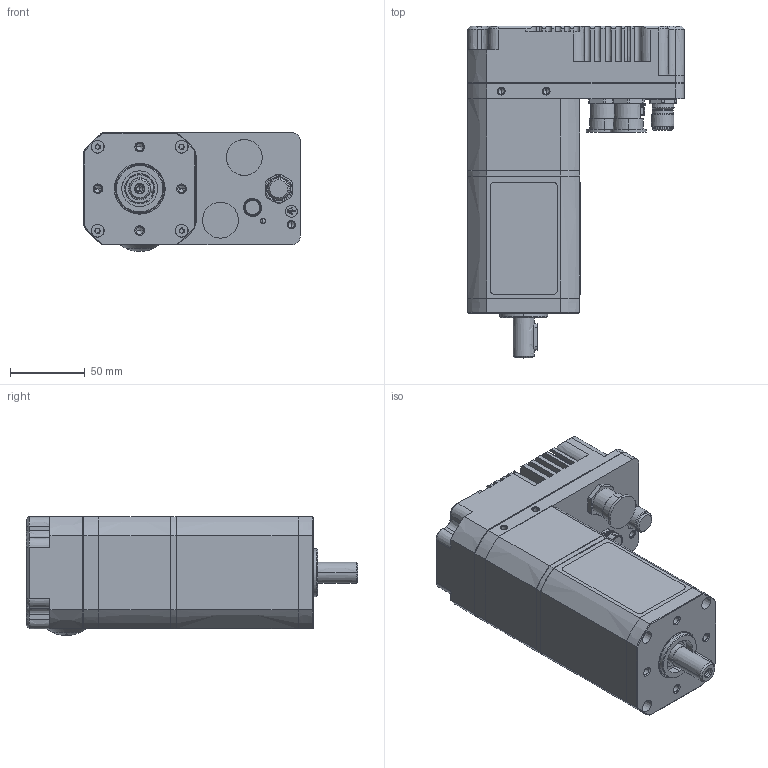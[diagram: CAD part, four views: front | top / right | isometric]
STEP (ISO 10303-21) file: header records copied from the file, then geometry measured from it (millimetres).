
FILE_DESCRIPTION((''),'2;1');
FILE_NAME('80350100','2018-09-17T',('alecma1'),('CROUZET-AUTOMATISMES'),'CREO PARAMETRIC BY PTC INC, 2017170','CREO PARAMETRIC BY PTC INC, 2017170','');
FILE_SCHEMA(('AP203_CONFIGURATION_CONTROLLED_3D_DESIGN_OF_MECHANICAL_PARTS_AND_ASSEMBLIES_MIM_LF { 1 0 10303 403 2 1 2 }'));
Products named in the file (1): 80350100
Bounding box: 145 x 222.1 x 79.7 mm (x, y, z)
Surface area: 125409.2 mm2 (no closed solid volume)
Topology: 0 solids, 0 shells, 752 faces, 3893 edges, 3836 vertices
Faces by surface type: bspline 709, torus 39, sphere 4
Entity records: 75531 total; most frequent: CARTESIAN_POINT 34893, DIRECTION 5883, TRIMMED_CURVE 4941, VECTOR 4110, LINE 4110, DEFINITIONAL_REPRESENTATION 3799, PCURVE 3799, COMPOSITE_CURVE_SEGMENT 3799
